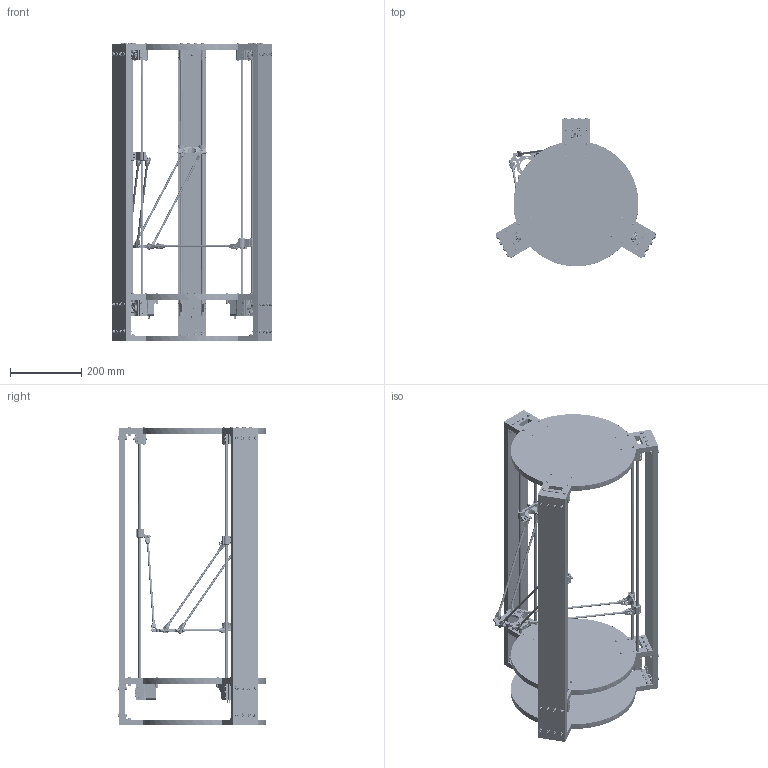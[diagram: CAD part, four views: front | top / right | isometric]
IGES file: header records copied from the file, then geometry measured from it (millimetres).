
Start section: C
Global section: file name: Rostock Delta 3d.igs; native system:  By UGS Corp.; preprocessor: XPlus GENERIC/IGES 3.0; author: Author; organization: Title; date: 20140501.164123; units: millimetre
Bounding box: 450.37 x 415.39 x 837.5 mm (x, y, z)
Surface area: 1773095.3 mm2 (no closed solid volume)
Topology: 0 solids, 0 shells, 11692 faces, 63250 edges, 63142 vertices
Faces by surface type: bspline 11692
